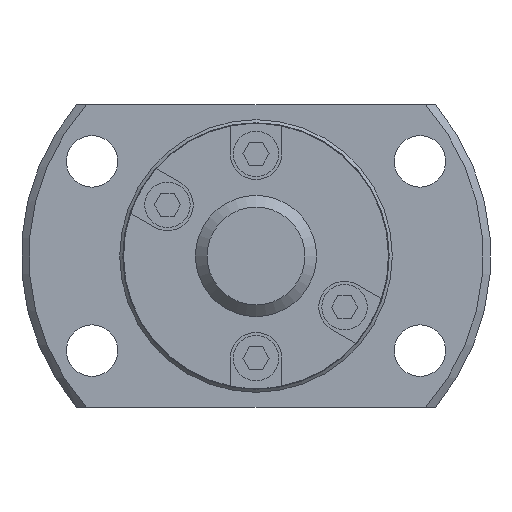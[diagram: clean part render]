
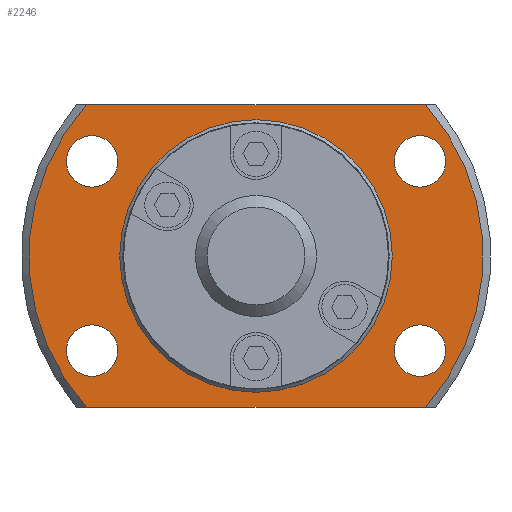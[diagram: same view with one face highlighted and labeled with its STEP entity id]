
A CAD part, left-side view. The second image highlights one B-rep face of the part: STEP entity #2246.
In plain terms, the highlighted planar face has unit normal (-1, 0, 0).
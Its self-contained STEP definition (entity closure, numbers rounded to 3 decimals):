
#68=LINE('',#3483,#284);
#69=LINE('',#3487,#285);
#284=VECTOR('',#2785,1000.);
#285=VECTOR('',#2788,1000.);
#611=ORIENTED_EDGE('',*,*,#1209,.F.);
#612=ORIENTED_EDGE('',*,*,#1210,.F.);
#613=ORIENTED_EDGE('',*,*,#1211,.F.);
#614=ORIENTED_EDGE('',*,*,#1212,.F.);
#615=ORIENTED_EDGE('',*,*,#1195,.F.);
#616=ORIENTED_EDGE('',*,*,#1213,.T.);
#617=ORIENTED_EDGE('',*,*,#1214,.F.);
#618=ORIENTED_EDGE('',*,*,#1215,.T.);
#619=ORIENTED_EDGE('',*,*,#1208,.T.);
#1195=EDGE_CURVE('',#1498,#1499,#1680,.T.);
#1208=EDGE_CURVE('',#1510,#1510,#1688,.T.);
#1209=EDGE_CURVE('',#1511,#1511,#1689,.F.);
#1210=EDGE_CURVE('',#1512,#1512,#1690,.F.);
#1211=EDGE_CURVE('',#1513,#1513,#1691,.F.);
#1212=EDGE_CURVE('',#1514,#1514,#1692,.F.);
#1213=EDGE_CURVE('',#1498,#1515,#68,.T.);
#1214=EDGE_CURVE('',#1516,#1515,#1693,.T.);
#1215=EDGE_CURVE('',#1516,#1499,#69,.T.);
#1498=VERTEX_POINT('',#3431);
#1499=VERTEX_POINT('',#3433);
#1510=VERTEX_POINT('',#3473);
#1511=VERTEX_POINT('',#3476);
#1512=VERTEX_POINT('',#3478);
#1513=VERTEX_POINT('',#3480);
#1514=VERTEX_POINT('',#3482);
#1515=VERTEX_POINT('',#3484);
#1516=VERTEX_POINT('',#3486);
#1680=CIRCLE('',#2432,15.);
#1688=CIRCLE('',#2447,8.85);
#1689=CIRCLE('',#2449,1.7);
#1690=CIRCLE('',#2450,1.7);
#1691=CIRCLE('',#2451,1.7);
#1692=CIRCLE('',#2452,1.7);
#1693=CIRCLE('',#2453,15.);
#1775=EDGE_LOOP('',(#611));
#1776=EDGE_LOOP('',(#612));
#1777=EDGE_LOOP('',(#613));
#1778=EDGE_LOOP('',(#614));
#1779=EDGE_LOOP('',(#615,#616,#617,#618));
#1780=EDGE_LOOP('',(#619));
#1971=FACE_BOUND('',#1775,.T.);
#1972=FACE_BOUND('',#1776,.T.);
#1973=FACE_BOUND('',#1777,.T.);
#1974=FACE_BOUND('',#1778,.T.);
#1975=FACE_BOUND('',#1779,.T.);
#1976=FACE_BOUND('',#1780,.T.);
#2137=PLANE('',#2448);
#2246=ADVANCED_FACE('',(#1971,#1972,#1973,#1974,#1975,#1976),#2137,.F.);
#2432=AXIS2_PLACEMENT_3D('',#3432,#2741,#2742);
#2447=AXIS2_PLACEMENT_3D('',#3472,#2773,#2774);
#2448=AXIS2_PLACEMENT_3D('',#3474,#2775,#2776);
#2449=AXIS2_PLACEMENT_3D('',#3475,#2777,#2778);
#2450=AXIS2_PLACEMENT_3D('',#3477,#2779,#2780);
#2451=AXIS2_PLACEMENT_3D('',#3479,#2781,#2782);
#2452=AXIS2_PLACEMENT_3D('',#3481,#2783,#2784);
#2453=AXIS2_PLACEMENT_3D('',#3485,#2786,#2787);
#2741=DIRECTION('',(1.,0.,0.));
#2742=DIRECTION('',(0.,0.,-1.));
#2773=DIRECTION('',(1.,0.,0.));
#2774=DIRECTION('',(0.,0.,-1.));
#2775=DIRECTION('',(1.,0.,0.));
#2776=DIRECTION('',(0.,0.,-1.));
#2777=DIRECTION('',(1.,0.,0.));
#2778=DIRECTION('',(0.,0.,-1.));
#2779=DIRECTION('',(1.,0.,0.));
#2780=DIRECTION('',(0.,0.,-1.));
#2781=DIRECTION('',(1.,0.,0.));
#2782=DIRECTION('',(0.,0.,-1.));
#2783=DIRECTION('',(1.,0.,0.));
#2784=DIRECTION('',(0.,0.,-1.));
#2785=DIRECTION('',(0.,-1.,0.));
#2786=DIRECTION('',(1.,0.,0.));
#2787=DIRECTION('',(0.,0.,-1.));
#2788=DIRECTION('',(0.,1.,0.));
#3431=CARTESIAN_POINT('',(17.,11.18,-10.));
#3432=CARTESIAN_POINT('',(17.,0.,0.));
#3433=CARTESIAN_POINT('',(17.,11.18,10.));
#3472=CARTESIAN_POINT('',(17.,0.,0.));
#3473=CARTESIAN_POINT('',(17.,0.,-8.85));
#3474=CARTESIAN_POINT('',(17.,8.85,0.));
#3475=CARTESIAN_POINT('',(17.,-10.825,-6.25));
#3476=CARTESIAN_POINT('',(17.,-10.825,-7.95));
#3477=CARTESIAN_POINT('',(17.,-10.825,6.25));
#3478=CARTESIAN_POINT('',(17.,-10.825,4.55));
#3479=CARTESIAN_POINT('',(17.,10.825,-6.25));
#3480=CARTESIAN_POINT('',(17.,10.825,-7.95));
#3481=CARTESIAN_POINT('',(17.,10.825,6.25));
#3482=CARTESIAN_POINT('',(17.,10.825,4.55));
#3483=CARTESIAN_POINT('',(17.,8.85,-10.));
#3484=CARTESIAN_POINT('',(17.,-11.18,-10.));
#3485=CARTESIAN_POINT('',(17.,0.,0.));
#3486=CARTESIAN_POINT('',(17.,-11.18,10.));
#3487=CARTESIAN_POINT('',(17.,8.85,10.));
